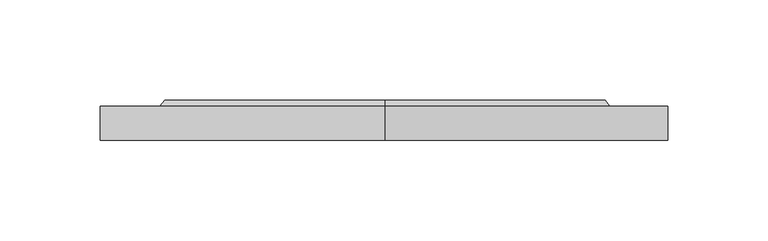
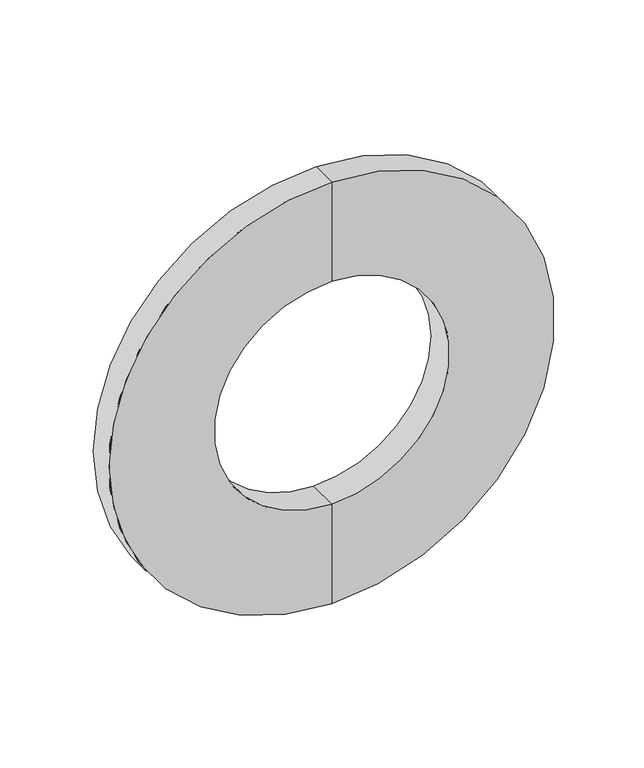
"""IFC4 building model written with IfcOpenShell, lengths in millimetres: pipe fitting geometry, Фланец : Фланец."""

from ifc_helpers import new_model, si_unit, frame, origin, place, context, project, spatial, polyline, circle_curve, source, transform, mapped, element, save
from ifc_brep_helpers import plane_surface, cylinder_surface, revolved_surface, advanced_brep


def pipe_fitting_00dcc9c6(model_context):
    return source(origin(), model_context, "Body", "AdvancedBrep", [
        advanced_brep(
        [(0.0, 0.0, -142.0), (0.0, 0.0, 142.0), (0.0, 17.0, 142.0), (0.0, 17.0, -142.0), (0.0, 0.0, -75.0), (0.0, 0.0, 75.0), (0.0, 20.0, -75.0), (0.0, 20.0, 75.0), (0.0, 20.0, -110.5), (0.0, 20.0, 110.5), (0.0, 17.0, -113.0), (0.0, 17.0, 113.0)],
        [
            (0, 1, circle_curve(frame((0.0, 0.0, 0.0), z_axis=(0.0, 1.0, 0.0), x_axis=(0.0, 0.0, 1.0)), 142.0)),
            (1, 2),
            (2, 3, circle_curve(frame((0.0, 17.0, 0.0), z_axis=(0.0, -1.0, 0.0), x_axis=(0.0, 0.0, 1.0)), 142.0)),
            (3, 0),
            (1, 0, circle_curve(frame((0.0, 0.0, 0.0), z_axis=(0.0, 1.0, 0.0), x_axis=(0.0, 0.0, 1.0)), 142.0)),
            (3, 2, circle_curve(frame((0.0, 17.0, 0.0), z_axis=(0.0, -1.0, 0.0), x_axis=(0.0, 0.0, 1.0)), 142.0)),
            (4, 5, circle_curve(frame((0.0, 0.0, 0.0), z_axis=(0.0, 1.0, 0.0), x_axis=(0.0, 0.0, 1.0)), 75.0)),
            (5, 1),
            (0, 4),
            (5, 4, circle_curve(frame((0.0, 0.0, 0.0), z_axis=(0.0, 1.0, 0.0), x_axis=(0.0, 0.0, 1.0)), 75.0)),
            (6, 7, circle_curve(frame((0.0, 20.0, 0.0), z_axis=(0.0, 1.0, 0.0), x_axis=(0.0, 0.0, 1.0)), 75.0)),
            (7, 5),
            (4, 6),
            (7, 6, circle_curve(frame((0.0, 20.0, 0.0), z_axis=(0.0, 1.0, 0.0), x_axis=(0.0, 0.0, 1.0)), 75.0)),
            (8, 9, circle_curve(frame((0.0, 20.0, 0.0), z_axis=(0.0, 1.0, 0.0), x_axis=(0.0, 0.0, 1.0)), 110.5)),
            (9, 7),
            (6, 8),
            (9, 8, circle_curve(frame((0.0, 20.0, 0.0), z_axis=(0.0, 1.0, 0.0), x_axis=(0.0, 0.0, 1.0)), 110.5)),
            (10, 11, circle_curve(frame((0.0, 17.0, 0.0), z_axis=(0.0, 1.0, 0.0), x_axis=(0.0, 0.0, 1.0)), 113.0)),
            (11, 9),
            (8, 10),
            (11, 10, circle_curve(frame((0.0, 17.0, 0.0), z_axis=(0.0, 1.0, 0.0), x_axis=(0.0, 0.0, 1.0)), 113.0)),
            (2, 11),
            (10, 3),
        ],
        [
            cylinder_surface(frame((0.0, -60.0, 0.0), z_axis=(0.0, -1.0, 0.0), x_axis=(0.0, 0.0, 1.0)), 142.0),
            plane_surface(frame((0.0, 0.0, 0.0), z_axis=(0.0, -1.0, 0.0), x_axis=(0.0, 0.0, 1.0))),
            revolved_surface(polyline([(0.0, 0.0, 75.0), (0.0, 20.0, 75.0)]), (0.0, -60.0, 0.0), (0.0, -1.0, 0.0)),
            plane_surface(frame((0.0, 20.0, 0.0), z_axis=(0.0, 1.0, 0.0), x_axis=(0.0, 0.0, 1.0))),
            revolved_surface(polyline([(0.0, 20.0, 110.5), (0.0, 17.0, 113.0)]), (0.0, -60.0, 0.0), (0.0, -1.0, 0.0)),
            plane_surface(frame((0.0, 17.0, 0.0), z_axis=(0.0, 1.0, 0.0), x_axis=(0.0, 0.0, 1.0))),
        ],
        [
            (0, [[1, 2, 3, 4]]),
            (0, [[5, -4, 6, -2]]),
            (1, [[7, 8, -1, 9]]),
            (1, [[10, -9, -5, -8]]),
            (2, [[11, 12, -7, 13]]),
            (2, [[14, -13, -10, -12]]),
            (3, [[15, 16, -11, 17]]),
            (3, [[18, -17, -14, -16]]),
            (4, [[19, 20, -15, 21]]),
            (4, [[22, -21, -18, -20]]),
            (5, [[-3, 23, -19, 24]]),
            (5, [[-6, -24, -22, -23]]),
        ],
    ),
    ])


if __name__ == "__main__":
    model = new_model("IFC4")
    model_context = context("Model", 3, world=origin())
    ifc_project = project(units=[si_unit("LENGTHUNIT", "METRE", prefix="MILLI")], contexts=[model_context])
    site = spatial("IfcSite", under=ifc_project)
    building = spatial("IfcBuilding", under=site)
    placement = place(None, origin())
    pipe_fitting_shape = pipe_fitting_00dcc9c6(model_context)
    element("IfcPipeFitting", 1, ObjectType="Фланец : Фланец", at=placement, inside=building, context=model_context, shape_type="MappedRepresentation", body=[
        mapped(pipe_fitting_shape, transform((0.0, 0.0, 0.0), x_axis=(1.0, 0.0, 0.0), y_axis=(0.0, 1.0, 0.0), z_axis=(0.0, 0.0, 1.0))),
    ])
    save(model, "model.ifc")
